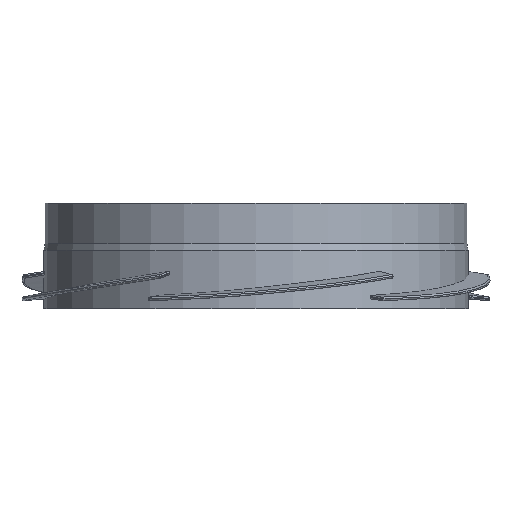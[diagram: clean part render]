
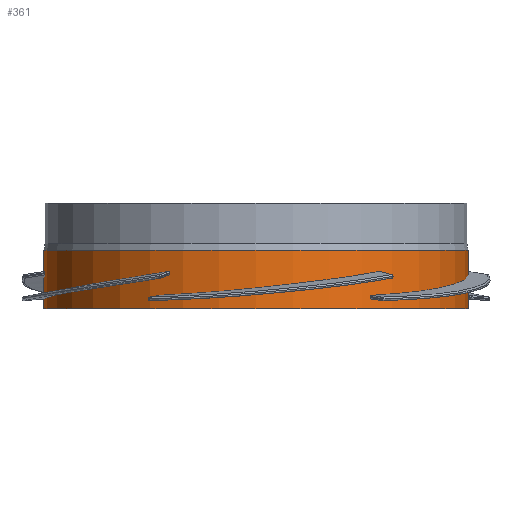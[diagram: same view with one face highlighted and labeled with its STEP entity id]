
A CAD part, left-side view. The second image highlights one B-rep face of the part: STEP entity #361.
In plain terms, the highlighted cylindrical face has radius 47.3 mm (diameter 94.6 mm), a full revolution.
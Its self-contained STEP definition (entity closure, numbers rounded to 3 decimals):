
#361=ADVANCED_FACE('',(#577,#579),#581,.T.);
#577=FACE_OUTER_BOUND('',#578,.T.);
#578=EDGE_LOOP('',(#1667));
#579=FACE_OUTER_BOUND('',#580,.T.);
#580=EDGE_LOOP('',(#1668));
#581=CYLINDRICAL_SURFACE('',#582,47.3);
#582=AXIS2_PLACEMENT_3D('',#583,#584,#585);
#583=CARTESIAN_POINT('',(0.,0.,0.));
#584=DIRECTION('',(0.,0.,-1.));
#585=DIRECTION('',(-1.,0.,0.));
#1667=ORIENTED_EDGE('',*,*,#1751,.T.);
#1668=ORIENTED_EDGE('',*,*,#1752,.F.);
#1751=EDGE_CURVE('',#1802,#1802,#1803,.T.);
#1752=EDGE_CURVE('',#1804,#1804,#1805,.T.);
#1802=VERTEX_POINT('',#1896);
#1803=CIRCLE('',#1897,47.3);
#1804=VERTEX_POINT('',#1901);
#1805=CIRCLE('',#1902,47.3);
#1896=CARTESIAN_POINT('',(-47.3,0.,1.));
#1897=AXIS2_PLACEMENT_3D('',#1898,#1899,#1900);
#1898=CARTESIAN_POINT('',(0.,0.,1.));
#1899=DIRECTION('',(0.,0.,-1.));
#1900=DIRECTION('',(-1.,0.,0.));
#1901=CARTESIAN_POINT('',(-47.3,0.,-12.));
#1902=AXIS2_PLACEMENT_3D('',#1903,#1904,#1905);
#1903=CARTESIAN_POINT('',(0.,0.,-12.));
#1904=DIRECTION('',(0.,0.,-1.));
#1905=DIRECTION('',(-1.,0.,0.));
